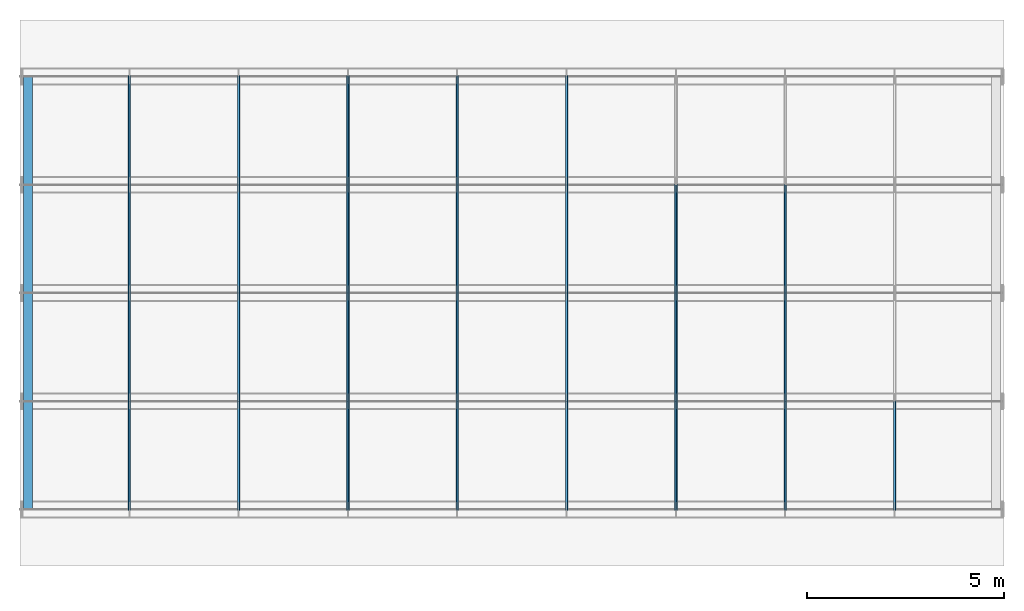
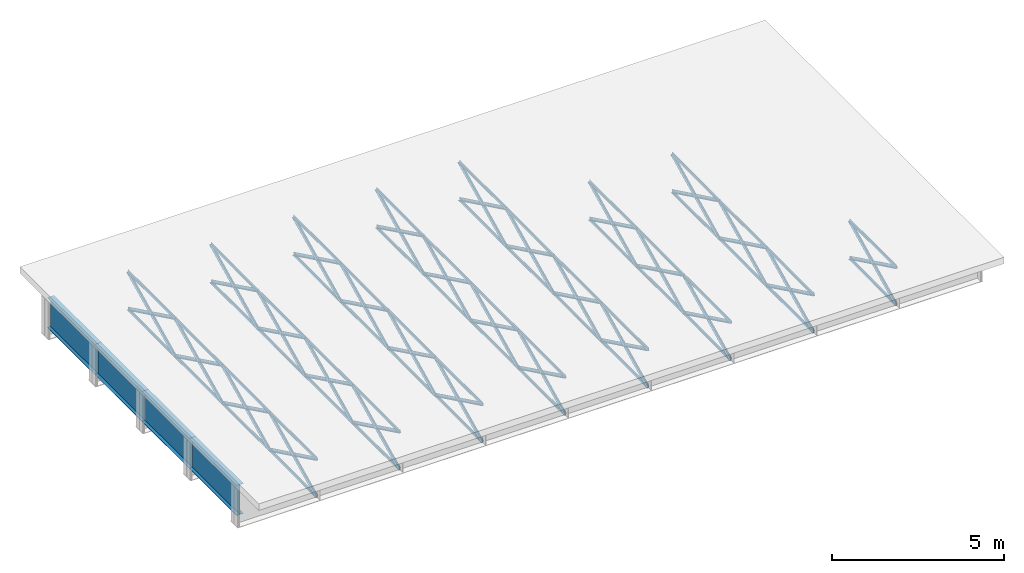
# One storey, part 1 of 13: 112 members.
"""IFC4 building model written with IfcOpenShell, lengths in metres."""

from ifc_helpers import new_model, si_unit, frame, origin, origin_with_axes, origin_2d_with_axis, place, context, subcontext, project, spatial, i_section, l_section, extrude, element, save


model = new_model("IFC4")

# Units and contexts
model_context = context("Model", 3, precision=1e-05, world=origin())
body_context = subcontext(model_context, "Body", "Model", "MODEL_VIEW")
ifc_project = project(units=[si_unit("LENGTHUNIT", "METRE"), si_unit("AREAUNIT", "SQUARE_METRE"), si_unit("VOLUMEUNIT", "CUBIC_METRE"), si_unit("PLANEANGLEUNIT", "RADIAN")], contexts=[model_context])

# Site, building, storey
site_placement = place(None, origin_with_axes())
site = spatial("IfcSite", under=ifc_project, at=site_placement, Name="Default Site")
building_placement = place(site_placement, origin_with_axes())
building = spatial("IfcBuilding", under=site, at=building_placement, Name="Bridge Structure")
storey_placement = place(building_placement, origin_with_axes())
storey = spatial("IfcBuildingStorey", under=building, at=storey_placement, Name="Superstructure")

# Members
for number, where, z_axis, x_axis, name in (
    (1, (0.2, -5.5, 0.134), (0.0, 1.0, 0.0), (-1.0, 0.0, 0.0), "End Diaphragm"),
    (2, (0.2, -2.75, 0.134), (0.0, 1.0, 0.0), (-1.0, 0.0, 0.0), "End Diaphragm"),
    (3, (0.2, 0.0, 0.134), (0.0, 1.0, 0.0), (-1.0, 0.0, 0.0), "End Diaphragm"),
    (4, (0.2, 2.75, 0.134), (0.0, 1.0, 0.0), (-1.0, 0.0, 0.0), "End Diaphragm"),
):
    element("IfcMember", number, at=place(storey_placement, frame(where, z_axis=z_axis, x_axis=x_axis)), inside=storey, Name=name, context=body_context, shape_type="SweptSolid", body=[
        extrude(i_section(OverallWidth=0.225, OverallDepth=1.071, WebThickness=0.012, FlangeThickness=0.012, at=origin_2d_with_axis()), origin_with_axes(), (0.0, 0.0, 1.0), 2.75),
    ])
for number, where, z_axis, x_axis, name in (
    (5, (2.7777777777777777, -5.5, 0.6695), (0.0, 0.8990855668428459, -0.43777293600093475), (-1.0, 0.0, 0.0), "Diagonal Brace"),
    (6, (2.7777777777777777, -5.5, -0.6695), (0.0, 0.8990855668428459, 0.43777293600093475), (-1.0, 0.0, 0.0), "Diagonal Brace"),
):
    element("IfcMember", number, at=place(storey_placement, frame(where, z_axis=z_axis, x_axis=x_axis)), inside=storey, Name=name, context=body_context, shape_type="SweptSolid", body=[
        extrude(l_section(Depth=0.1, Width=0.066, Thickness=0.008, at=origin_2d_with_axis()), origin_with_axes(), (0.0, 0.0, 1.0), 3.058663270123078),
    ])
for number, where, z_axis, x_axis, name in (
    (7, (2.7777777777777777, -5.5, -0.6695), (0.0, 1.0, 0.0), (-1.0, 0.0, 0.0), "Bottom Chord"),
    (8, (2.7777777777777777, -5.5, 0.6695), (0.0, 1.0, 0.0), (-1.0, 0.0, 0.0), "Top Chord"),
):
    element("IfcMember", number, at=place(storey_placement, frame(where, z_axis=z_axis, x_axis=x_axis)), inside=storey, Name=name, context=body_context, shape_type="SweptSolid", body=[
        extrude(l_section(Depth=0.08700000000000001, Width=0.053, Thickness=0.008, at=origin_2d_with_axis()), origin_with_axes(), (0.0, 0.0, 1.0), 2.75),
    ])
for number, where, z_axis, x_axis, name in (
    (9, (2.7777777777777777, -2.75, 0.6695), (0.0, 0.8990855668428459, -0.43777293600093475), (-1.0, 0.0, 0.0), "Diagonal Brace"),
    (10, (2.7777777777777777, -2.75, -0.6695), (0.0, 0.8990855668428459, 0.43777293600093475), (-1.0, 0.0, 0.0), "Diagonal Brace"),
):
    element("IfcMember", number, at=place(storey_placement, frame(where, z_axis=z_axis, x_axis=x_axis)), inside=storey, Name=name, context=body_context, shape_type="SweptSolid", body=[
        extrude(l_section(Depth=0.1, Width=0.066, Thickness=0.008, at=origin_2d_with_axis()), origin_with_axes(), (0.0, 0.0, 1.0), 3.058663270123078),
    ])
for number, where, z_axis, x_axis, name in (
    (11, (2.7777777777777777, -2.75, -0.6695), (0.0, 1.0, 0.0), (-1.0, 0.0, 0.0), "Bottom Chord"),
    (12, (2.7777777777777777, -2.75, 0.6695), (0.0, 1.0, 0.0), (-1.0, 0.0, 0.0), "Top Chord"),
):
    element("IfcMember", number, at=place(storey_placement, frame(where, z_axis=z_axis, x_axis=x_axis)), inside=storey, Name=name, context=body_context, shape_type="SweptSolid", body=[
        extrude(l_section(Depth=0.08700000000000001, Width=0.053, Thickness=0.008, at=origin_2d_with_axis()), origin_with_axes(), (0.0, 0.0, 1.0), 2.75),
    ])
for number, where, z_axis, x_axis, name in (
    (13, (2.7777777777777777, 0.0, 0.6695), (0.0, 0.8990855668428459, -0.43777293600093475), (-1.0, 0.0, 0.0), "Diagonal Brace"),
    (14, (2.7777777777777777, 0.0, -0.6695), (0.0, 0.8990855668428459, 0.43777293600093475), (-1.0, 0.0, 0.0), "Diagonal Brace"),
):
    element("IfcMember", number, at=place(storey_placement, frame(where, z_axis=z_axis, x_axis=x_axis)), inside=storey, Name=name, context=body_context, shape_type="SweptSolid", body=[
        extrude(l_section(Depth=0.1, Width=0.066, Thickness=0.008, at=origin_2d_with_axis()), origin_with_axes(), (0.0, 0.0, 1.0), 3.058663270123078),
    ])
for number, where, z_axis, x_axis, name in (
    (15, (2.7777777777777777, 0.0, -0.6695), (0.0, 1.0, 0.0), (-1.0, 0.0, 0.0), "Bottom Chord"),
    (16, (2.7777777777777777, 0.0, 0.6695), (0.0, 1.0, 0.0), (-1.0, 0.0, 0.0), "Top Chord"),
):
    element("IfcMember", number, at=place(storey_placement, frame(where, z_axis=z_axis, x_axis=x_axis)), inside=storey, Name=name, context=body_context, shape_type="SweptSolid", body=[
        extrude(l_section(Depth=0.08700000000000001, Width=0.053, Thickness=0.008, at=origin_2d_with_axis()), origin_with_axes(), (0.0, 0.0, 1.0), 2.75),
    ])
for number, where, z_axis, x_axis, name in (
    (17, (2.7777777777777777, 2.75, 0.6695), (0.0, 0.8990855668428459, -0.43777293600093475), (-1.0, 0.0, 0.0), "Diagonal Brace"),
    (18, (2.7777777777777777, 2.75, -0.6695), (0.0, 0.8990855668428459, 0.43777293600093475), (-1.0, 0.0, 0.0), "Diagonal Brace"),
):
    element("IfcMember", number, at=place(storey_placement, frame(where, z_axis=z_axis, x_axis=x_axis)), inside=storey, Name=name, context=body_context, shape_type="SweptSolid", body=[
        extrude(l_section(Depth=0.1, Width=0.066, Thickness=0.008, at=origin_2d_with_axis()), origin_with_axes(), (0.0, 0.0, 1.0), 3.058663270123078),
    ])
for number, where, z_axis, x_axis, name in (
    (19, (2.7777777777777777, 2.75, -0.6695), (0.0, 1.0, 0.0), (-1.0, 0.0, 0.0), "Bottom Chord"),
    (20, (2.7777777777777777, 2.75, 0.6695), (0.0, 1.0, 0.0), (-1.0, 0.0, 0.0), "Top Chord"),
):
    element("IfcMember", number, at=place(storey_placement, frame(where, z_axis=z_axis, x_axis=x_axis)), inside=storey, Name=name, context=body_context, shape_type="SweptSolid", body=[
        extrude(l_section(Depth=0.08700000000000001, Width=0.053, Thickness=0.008, at=origin_2d_with_axis()), origin_with_axes(), (0.0, 0.0, 1.0), 2.75),
    ])
for number, where, z_axis, x_axis, name in (
    (21, (5.555555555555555, -5.5, 0.6695), (0.0, 0.8990855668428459, -0.43777293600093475), (-1.0, 0.0, 0.0), "Diagonal Brace"),
    (22, (5.555555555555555, -5.5, -0.6695), (0.0, 0.8990855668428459, 0.43777293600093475), (-1.0, 0.0, 0.0), "Diagonal Brace"),
):
    element("IfcMember", number, at=place(storey_placement, frame(where, z_axis=z_axis, x_axis=x_axis)), inside=storey, Name=name, context=body_context, shape_type="SweptSolid", body=[
        extrude(l_section(Depth=0.1, Width=0.066, Thickness=0.008, at=origin_2d_with_axis()), origin_with_axes(), (0.0, 0.0, 1.0), 3.058663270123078),
    ])
for number, where, z_axis, x_axis, name in (
    (23, (5.555555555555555, -5.5, -0.6695), (0.0, 1.0, 0.0), (-1.0, 0.0, 0.0), "Bottom Chord"),
    (24, (5.555555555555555, -5.5, 0.6695), (0.0, 1.0, 0.0), (-1.0, 0.0, 0.0), "Top Chord"),
):
    element("IfcMember", number, at=place(storey_placement, frame(where, z_axis=z_axis, x_axis=x_axis)), inside=storey, Name=name, context=body_context, shape_type="SweptSolid", body=[
        extrude(l_section(Depth=0.08700000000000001, Width=0.053, Thickness=0.008, at=origin_2d_with_axis()), origin_with_axes(), (0.0, 0.0, 1.0), 2.75),
    ])
for number, where, z_axis, x_axis, name in (
    (25, (5.555555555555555, -2.75, 0.6695), (0.0, 0.8990855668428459, -0.43777293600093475), (-1.0, 0.0, 0.0), "Diagonal Brace"),
    (26, (5.555555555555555, -2.75, -0.6695), (0.0, 0.8990855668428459, 0.43777293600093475), (-1.0, 0.0, 0.0), "Diagonal Brace"),
):
    element("IfcMember", number, at=place(storey_placement, frame(where, z_axis=z_axis, x_axis=x_axis)), inside=storey, Name=name, context=body_context, shape_type="SweptSolid", body=[
        extrude(l_section(Depth=0.1, Width=0.066, Thickness=0.008, at=origin_2d_with_axis()), origin_with_axes(), (0.0, 0.0, 1.0), 3.058663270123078),
    ])
for number, where, z_axis, x_axis, name in (
    (27, (5.555555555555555, -2.75, -0.6695), (0.0, 1.0, 0.0), (-1.0, 0.0, 0.0), "Bottom Chord"),
    (28, (5.555555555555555, -2.75, 0.6695), (0.0, 1.0, 0.0), (-1.0, 0.0, 0.0), "Top Chord"),
):
    element("IfcMember", number, at=place(storey_placement, frame(where, z_axis=z_axis, x_axis=x_axis)), inside=storey, Name=name, context=body_context, shape_type="SweptSolid", body=[
        extrude(l_section(Depth=0.08700000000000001, Width=0.053, Thickness=0.008, at=origin_2d_with_axis()), origin_with_axes(), (0.0, 0.0, 1.0), 2.75),
    ])
for number, where, z_axis, x_axis, name in (
    (29, (5.555555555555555, 0.0, 0.6695), (0.0, 0.8990855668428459, -0.43777293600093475), (-1.0, 0.0, 0.0), "Diagonal Brace"),
    (30, (5.555555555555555, 0.0, -0.6695), (0.0, 0.8990855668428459, 0.43777293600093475), (-1.0, 0.0, 0.0), "Diagonal Brace"),
):
    element("IfcMember", number, at=place(storey_placement, frame(where, z_axis=z_axis, x_axis=x_axis)), inside=storey, Name=name, context=body_context, shape_type="SweptSolid", body=[
        extrude(l_section(Depth=0.1, Width=0.066, Thickness=0.008, at=origin_2d_with_axis()), origin_with_axes(), (0.0, 0.0, 1.0), 3.058663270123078),
    ])
for number, where, z_axis, x_axis, name in (
    (31, (5.555555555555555, 0.0, -0.6695), (0.0, 1.0, 0.0), (-1.0, 0.0, 0.0), "Bottom Chord"),
    (32, (5.555555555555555, 0.0, 0.6695), (0.0, 1.0, 0.0), (-1.0, 0.0, 0.0), "Top Chord"),
):
    element("IfcMember", number, at=place(storey_placement, frame(where, z_axis=z_axis, x_axis=x_axis)), inside=storey, Name=name, context=body_context, shape_type="SweptSolid", body=[
        extrude(l_section(Depth=0.08700000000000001, Width=0.053, Thickness=0.008, at=origin_2d_with_axis()), origin_with_axes(), (0.0, 0.0, 1.0), 2.75),
    ])
for number, where, z_axis, x_axis, name in (
    (33, (5.555555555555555, 2.75, 0.6695), (0.0, 0.8990855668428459, -0.43777293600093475), (-1.0, 0.0, 0.0), "Diagonal Brace"),
    (34, (5.555555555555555, 2.75, -0.6695), (0.0, 0.8990855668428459, 0.43777293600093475), (-1.0, 0.0, 0.0), "Diagonal Brace"),
):
    element("IfcMember", number, at=place(storey_placement, frame(where, z_axis=z_axis, x_axis=x_axis)), inside=storey, Name=name, context=body_context, shape_type="SweptSolid", body=[
        extrude(l_section(Depth=0.1, Width=0.066, Thickness=0.008, at=origin_2d_with_axis()), origin_with_axes(), (0.0, 0.0, 1.0), 3.058663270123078),
    ])
for number, where, z_axis, x_axis, name in (
    (35, (5.555555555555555, 2.75, -0.6695), (0.0, 1.0, 0.0), (-1.0, 0.0, 0.0), "Bottom Chord"),
    (36, (5.555555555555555, 2.75, 0.6695), (0.0, 1.0, 0.0), (-1.0, 0.0, 0.0), "Top Chord"),
):
    element("IfcMember", number, at=place(storey_placement, frame(where, z_axis=z_axis, x_axis=x_axis)), inside=storey, Name=name, context=body_context, shape_type="SweptSolid", body=[
        extrude(l_section(Depth=0.08700000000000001, Width=0.053, Thickness=0.008, at=origin_2d_with_axis()), origin_with_axes(), (0.0, 0.0, 1.0), 2.75),
    ])
for number, where, z_axis, x_axis, name in (
    (37, (8.333333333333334, -5.5, 0.6695), (0.0, 0.8990855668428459, -0.43777293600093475), (-1.0, 0.0, 0.0), "Diagonal Brace"),
    (38, (8.333333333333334, -5.5, -0.6695), (0.0, 0.8990855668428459, 0.43777293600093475), (-1.0, 0.0, 0.0), "Diagonal Brace"),
):
    element("IfcMember", number, at=place(storey_placement, frame(where, z_axis=z_axis, x_axis=x_axis)), inside=storey, Name=name, context=body_context, shape_type="SweptSolid", body=[
        extrude(l_section(Depth=0.1, Width=0.066, Thickness=0.008, at=origin_2d_with_axis()), origin_with_axes(), (0.0, 0.0, 1.0), 3.058663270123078),
    ])
for number, where, z_axis, x_axis, name in (
    (39, (8.333333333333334, -5.5, -0.6695), (0.0, 1.0, 0.0), (-1.0, 0.0, 0.0), "Bottom Chord"),
    (40, (8.333333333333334, -5.5, 0.6695), (0.0, 1.0, 0.0), (-1.0, 0.0, 0.0), "Top Chord"),
):
    element("IfcMember", number, at=place(storey_placement, frame(where, z_axis=z_axis, x_axis=x_axis)), inside=storey, Name=name, context=body_context, shape_type="SweptSolid", body=[
        extrude(l_section(Depth=0.08700000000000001, Width=0.053, Thickness=0.008, at=origin_2d_with_axis()), origin_with_axes(), (0.0, 0.0, 1.0), 2.75),
    ])
for number, where, z_axis, x_axis, name in (
    (41, (8.333333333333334, -2.75, 0.6695), (0.0, 0.8990855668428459, -0.43777293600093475), (-1.0, 0.0, 0.0), "Diagonal Brace"),
    (42, (8.333333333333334, -2.75, -0.6695), (0.0, 0.8990855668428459, 0.43777293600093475), (-1.0, 0.0, 0.0), "Diagonal Brace"),
):
    element("IfcMember", number, at=place(storey_placement, frame(where, z_axis=z_axis, x_axis=x_axis)), inside=storey, Name=name, context=body_context, shape_type="SweptSolid", body=[
        extrude(l_section(Depth=0.1, Width=0.066, Thickness=0.008, at=origin_2d_with_axis()), origin_with_axes(), (0.0, 0.0, 1.0), 3.058663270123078),
    ])
for number, where, z_axis, x_axis, name in (
    (43, (8.333333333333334, -2.75, -0.6695), (0.0, 1.0, 0.0), (-1.0, 0.0, 0.0), "Bottom Chord"),
    (44, (8.333333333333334, -2.75, 0.6695), (0.0, 1.0, 0.0), (-1.0, 0.0, 0.0), "Top Chord"),
):
    element("IfcMember", number, at=place(storey_placement, frame(where, z_axis=z_axis, x_axis=x_axis)), inside=storey, Name=name, context=body_context, shape_type="SweptSolid", body=[
        extrude(l_section(Depth=0.08700000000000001, Width=0.053, Thickness=0.008, at=origin_2d_with_axis()), origin_with_axes(), (0.0, 0.0, 1.0), 2.75),
    ])
for number, where, z_axis, x_axis, name in (
    (45, (8.333333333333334, 0.0, 0.6695), (0.0, 0.8990855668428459, -0.43777293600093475), (-1.0, 0.0, 0.0), "Diagonal Brace"),
    (46, (8.333333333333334, 0.0, -0.6695), (0.0, 0.8990855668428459, 0.43777293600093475), (-1.0, 0.0, 0.0), "Diagonal Brace"),
):
    element("IfcMember", number, at=place(storey_placement, frame(where, z_axis=z_axis, x_axis=x_axis)), inside=storey, Name=name, context=body_context, shape_type="SweptSolid", body=[
        extrude(l_section(Depth=0.1, Width=0.066, Thickness=0.008, at=origin_2d_with_axis()), origin_with_axes(), (0.0, 0.0, 1.0), 3.058663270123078),
    ])
for number, where, z_axis, x_axis, name in (
    (47, (8.333333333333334, 0.0, -0.6695), (0.0, 1.0, 0.0), (-1.0, 0.0, 0.0), "Bottom Chord"),
    (48, (8.333333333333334, 0.0, 0.6695), (0.0, 1.0, 0.0), (-1.0, 0.0, 0.0), "Top Chord"),
):
    element("IfcMember", number, at=place(storey_placement, frame(where, z_axis=z_axis, x_axis=x_axis)), inside=storey, Name=name, context=body_context, shape_type="SweptSolid", body=[
        extrude(l_section(Depth=0.08700000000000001, Width=0.053, Thickness=0.008, at=origin_2d_with_axis()), origin_with_axes(), (0.0, 0.0, 1.0), 2.75),
    ])
for number, where, z_axis, x_axis, name in (
    (49, (8.333333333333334, 2.75, 0.6695), (0.0, 0.8990855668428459, -0.43777293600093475), (-1.0, 0.0, 0.0), "Diagonal Brace"),
    (50, (8.333333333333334, 2.75, -0.6695), (0.0, 0.8990855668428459, 0.43777293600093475), (-1.0, 0.0, 0.0), "Diagonal Brace"),
):
    element("IfcMember", number, at=place(storey_placement, frame(where, z_axis=z_axis, x_axis=x_axis)), inside=storey, Name=name, context=body_context, shape_type="SweptSolid", body=[
        extrude(l_section(Depth=0.1, Width=0.066, Thickness=0.008, at=origin_2d_with_axis()), origin_with_axes(), (0.0, 0.0, 1.0), 3.058663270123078),
    ])
for number, where, z_axis, x_axis, name in (
    (51, (8.333333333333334, 2.75, -0.6695), (0.0, 1.0, 0.0), (-1.0, 0.0, 0.0), "Bottom Chord"),
    (52, (8.333333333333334, 2.75, 0.6695), (0.0, 1.0, 0.0), (-1.0, 0.0, 0.0), "Top Chord"),
):
    element("IfcMember", number, at=place(storey_placement, frame(where, z_axis=z_axis, x_axis=x_axis)), inside=storey, Name=name, context=body_context, shape_type="SweptSolid", body=[
        extrude(l_section(Depth=0.08700000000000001, Width=0.053, Thickness=0.008, at=origin_2d_with_axis()), origin_with_axes(), (0.0, 0.0, 1.0), 2.75),
    ])
for number, where, z_axis, x_axis, name in (
    (53, (11.11111111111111, -5.5, 0.6695), (0.0, 0.8990855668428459, -0.43777293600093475), (-1.0, 0.0, 0.0), "Diagonal Brace"),
    (54, (11.11111111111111, -5.5, -0.6695), (0.0, 0.8990855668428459, 0.43777293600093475), (-1.0, 0.0, 0.0), "Diagonal Brace"),
):
    element("IfcMember", number, at=place(storey_placement, frame(where, z_axis=z_axis, x_axis=x_axis)), inside=storey, Name=name, context=body_context, shape_type="SweptSolid", body=[
        extrude(l_section(Depth=0.1, Width=0.066, Thickness=0.008, at=origin_2d_with_axis()), origin_with_axes(), (0.0, 0.0, 1.0), 3.058663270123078),
    ])
for number, where, z_axis, x_axis, name in (
    (55, (11.11111111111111, -5.5, -0.6695), (0.0, 1.0, 0.0), (-1.0, 0.0, 0.0), "Bottom Chord"),
    (56, (11.11111111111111, -5.5, 0.6695), (0.0, 1.0, 0.0), (-1.0, 0.0, 0.0), "Top Chord"),
):
    element("IfcMember", number, at=place(storey_placement, frame(where, z_axis=z_axis, x_axis=x_axis)), inside=storey, Name=name, context=body_context, shape_type="SweptSolid", body=[
        extrude(l_section(Depth=0.08700000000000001, Width=0.053, Thickness=0.008, at=origin_2d_with_axis()), origin_with_axes(), (0.0, 0.0, 1.0), 2.75),
    ])
for number, where, z_axis, x_axis, name in (
    (57, (11.11111111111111, -2.75, 0.6695), (0.0, 0.8990855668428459, -0.43777293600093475), (-1.0, 0.0, 0.0), "Diagonal Brace"),
    (58, (11.11111111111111, -2.75, -0.6695), (0.0, 0.8990855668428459, 0.43777293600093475), (-1.0, 0.0, 0.0), "Diagonal Brace"),
):
    element("IfcMember", number, at=place(storey_placement, frame(where, z_axis=z_axis, x_axis=x_axis)), inside=storey, Name=name, context=body_context, shape_type="SweptSolid", body=[
        extrude(l_section(Depth=0.1, Width=0.066, Thickness=0.008, at=origin_2d_with_axis()), origin_with_axes(), (0.0, 0.0, 1.0), 3.058663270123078),
    ])
for number, where, z_axis, x_axis, name in (
    (59, (11.11111111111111, -2.75, -0.6695), (0.0, 1.0, 0.0), (-1.0, 0.0, 0.0), "Bottom Chord"),
    (60, (11.11111111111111, -2.75, 0.6695), (0.0, 1.0, 0.0), (-1.0, 0.0, 0.0), "Top Chord"),
):
    element("IfcMember", number, at=place(storey_placement, frame(where, z_axis=z_axis, x_axis=x_axis)), inside=storey, Name=name, context=body_context, shape_type="SweptSolid", body=[
        extrude(l_section(Depth=0.08700000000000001, Width=0.053, Thickness=0.008, at=origin_2d_with_axis()), origin_with_axes(), (0.0, 0.0, 1.0), 2.75),
    ])
for number, where, z_axis, x_axis, name in (
    (61, (11.11111111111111, 0.0, 0.6695), (0.0, 0.8990855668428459, -0.43777293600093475), (-1.0, 0.0, 0.0), "Diagonal Brace"),
    (62, (11.11111111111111, 0.0, -0.6695), (0.0, 0.8990855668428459, 0.43777293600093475), (-1.0, 0.0, 0.0), "Diagonal Brace"),
):
    element("IfcMember", number, at=place(storey_placement, frame(where, z_axis=z_axis, x_axis=x_axis)), inside=storey, Name=name, context=body_context, shape_type="SweptSolid", body=[
        extrude(l_section(Depth=0.1, Width=0.066, Thickness=0.008, at=origin_2d_with_axis()), origin_with_axes(), (0.0, 0.0, 1.0), 3.058663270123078),
    ])
for number, where, z_axis, x_axis, name in (
    (63, (11.11111111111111, 0.0, -0.6695), (0.0, 1.0, 0.0), (-1.0, 0.0, 0.0), "Bottom Chord"),
    (64, (11.11111111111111, 0.0, 0.6695), (0.0, 1.0, 0.0), (-1.0, 0.0, 0.0), "Top Chord"),
):
    element("IfcMember", number, at=place(storey_placement, frame(where, z_axis=z_axis, x_axis=x_axis)), inside=storey, Name=name, context=body_context, shape_type="SweptSolid", body=[
        extrude(l_section(Depth=0.08700000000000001, Width=0.053, Thickness=0.008, at=origin_2d_with_axis()), origin_with_axes(), (0.0, 0.0, 1.0), 2.75),
    ])
for number, where, z_axis, x_axis, name in (
    (65, (11.11111111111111, 2.75, 0.6695), (0.0, 0.8990855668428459, -0.43777293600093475), (-1.0, 0.0, 0.0), "Diagonal Brace"),
    (66, (11.11111111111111, 2.75, -0.6695), (0.0, 0.8990855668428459, 0.43777293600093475), (-1.0, 0.0, 0.0), "Diagonal Brace"),
):
    element("IfcMember", number, at=place(storey_placement, frame(where, z_axis=z_axis, x_axis=x_axis)), inside=storey, Name=name, context=body_context, shape_type="SweptSolid", body=[
        extrude(l_section(Depth=0.1, Width=0.066, Thickness=0.008, at=origin_2d_with_axis()), origin_with_axes(), (0.0, 0.0, 1.0), 3.058663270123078),
    ])
for number, where, z_axis, x_axis, name in (
    (67, (11.11111111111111, 2.75, -0.6695), (0.0, 1.0, 0.0), (-1.0, 0.0, 0.0), "Bottom Chord"),
    (68, (11.11111111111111, 2.75, 0.6695), (0.0, 1.0, 0.0), (-1.0, 0.0, 0.0), "Top Chord"),
):
    element("IfcMember", number, at=place(storey_placement, frame(where, z_axis=z_axis, x_axis=x_axis)), inside=storey, Name=name, context=body_context, shape_type="SweptSolid", body=[
        extrude(l_section(Depth=0.08700000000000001, Width=0.053, Thickness=0.008, at=origin_2d_with_axis()), origin_with_axes(), (0.0, 0.0, 1.0), 2.75),
    ])
for number, where, z_axis, x_axis, name in (
    (69, (13.88888888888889, -5.5, 0.6695), (0.0, 0.8990855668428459, -0.43777293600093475), (-1.0, 0.0, 0.0), "Diagonal Brace"),
    (70, (13.88888888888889, -5.5, -0.6695), (0.0, 0.8990855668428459, 0.43777293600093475), (-1.0, 0.0, 0.0), "Diagonal Brace"),
):
    element("IfcMember", number, at=place(storey_placement, frame(where, z_axis=z_axis, x_axis=x_axis)), inside=storey, Name=name, context=body_context, shape_type="SweptSolid", body=[
        extrude(l_section(Depth=0.1, Width=0.066, Thickness=0.008, at=origin_2d_with_axis()), origin_with_axes(), (0.0, 0.0, 1.0), 3.058663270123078),
    ])
for number, where, z_axis, x_axis, name in (
    (71, (13.88888888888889, -5.5, -0.6695), (0.0, 1.0, 0.0), (-1.0, 0.0, 0.0), "Bottom Chord"),
    (72, (13.88888888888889, -5.5, 0.6695), (0.0, 1.0, 0.0), (-1.0, 0.0, 0.0), "Top Chord"),
):
    element("IfcMember", number, at=place(storey_placement, frame(where, z_axis=z_axis, x_axis=x_axis)), inside=storey, Name=name, context=body_context, shape_type="SweptSolid", body=[
        extrude(l_section(Depth=0.08700000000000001, Width=0.053, Thickness=0.008, at=origin_2d_with_axis()), origin_with_axes(), (0.0, 0.0, 1.0), 2.75),
    ])
for number, where, z_axis, x_axis, name in (
    (73, (13.88888888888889, -2.75, 0.6695), (0.0, 0.8990855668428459, -0.43777293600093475), (-1.0, 0.0, 0.0), "Diagonal Brace"),
    (74, (13.88888888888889, -2.75, -0.6695), (0.0, 0.8990855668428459, 0.43777293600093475), (-1.0, 0.0, 0.0), "Diagonal Brace"),
):
    element("IfcMember", number, at=place(storey_placement, frame(where, z_axis=z_axis, x_axis=x_axis)), inside=storey, Name=name, context=body_context, shape_type="SweptSolid", body=[
        extrude(l_section(Depth=0.1, Width=0.066, Thickness=0.008, at=origin_2d_with_axis()), origin_with_axes(), (0.0, 0.0, 1.0), 3.058663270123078),
    ])
for number, where, z_axis, x_axis, name in (
    (75, (13.88888888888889, -2.75, -0.6695), (0.0, 1.0, 0.0), (-1.0, 0.0, 0.0), "Bottom Chord"),
    (76, (13.88888888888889, -2.75, 0.6695), (0.0, 1.0, 0.0), (-1.0, 0.0, 0.0), "Top Chord"),
):
    element("IfcMember", number, at=place(storey_placement, frame(where, z_axis=z_axis, x_axis=x_axis)), inside=storey, Name=name, context=body_context, shape_type="SweptSolid", body=[
        extrude(l_section(Depth=0.08700000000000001, Width=0.053, Thickness=0.008, at=origin_2d_with_axis()), origin_with_axes(), (0.0, 0.0, 1.0), 2.75),
    ])
for number, where, z_axis, x_axis, name in (
    (77, (13.88888888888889, 0.0, 0.6695), (0.0, 0.8990855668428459, -0.43777293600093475), (-1.0, 0.0, 0.0), "Diagonal Brace"),
    (78, (13.88888888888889, 0.0, -0.6695), (0.0, 0.8990855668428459, 0.43777293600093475), (-1.0, 0.0, 0.0), "Diagonal Brace"),
):
    element("IfcMember", number, at=place(storey_placement, frame(where, z_axis=z_axis, x_axis=x_axis)), inside=storey, Name=name, context=body_context, shape_type="SweptSolid", body=[
        extrude(l_section(Depth=0.1, Width=0.066, Thickness=0.008, at=origin_2d_with_axis()), origin_with_axes(), (0.0, 0.0, 1.0), 3.058663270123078),
    ])
for number, where, z_axis, x_axis, name in (
    (79, (13.88888888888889, 0.0, -0.6695), (0.0, 1.0, 0.0), (-1.0, 0.0, 0.0), "Bottom Chord"),
    (80, (13.88888888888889, 0.0, 0.6695), (0.0, 1.0, 0.0), (-1.0, 0.0, 0.0), "Top Chord"),
):
    element("IfcMember", number, at=place(storey_placement, frame(where, z_axis=z_axis, x_axis=x_axis)), inside=storey, Name=name, context=body_context, shape_type="SweptSolid", body=[
        extrude(l_section(Depth=0.08700000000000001, Width=0.053, Thickness=0.008, at=origin_2d_with_axis()), origin_with_axes(), (0.0, 0.0, 1.0), 2.75),
    ])
for number, where, z_axis, x_axis, name in (
    (81, (13.88888888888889, 2.75, 0.6695), (0.0, 0.8990855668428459, -0.43777293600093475), (-1.0, 0.0, 0.0), "Diagonal Brace"),
    (82, (13.88888888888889, 2.75, -0.6695), (0.0, 0.8990855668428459, 0.43777293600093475), (-1.0, 0.0, 0.0), "Diagonal Brace"),
):
    element("IfcMember", number, at=place(storey_placement, frame(where, z_axis=z_axis, x_axis=x_axis)), inside=storey, Name=name, context=body_context, shape_type="SweptSolid", body=[
        extrude(l_section(Depth=0.1, Width=0.066, Thickness=0.008, at=origin_2d_with_axis()), origin_with_axes(), (0.0, 0.0, 1.0), 3.058663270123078),
    ])
for number, where, z_axis, x_axis, name in (
    (83, (13.88888888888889, 2.75, -0.6695), (0.0, 1.0, 0.0), (-1.0, 0.0, 0.0), "Bottom Chord"),
    (84, (13.88888888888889, 2.75, 0.6695), (0.0, 1.0, 0.0), (-1.0, 0.0, 0.0), "Top Chord"),
):
    element("IfcMember", number, at=place(storey_placement, frame(where, z_axis=z_axis, x_axis=x_axis)), inside=storey, Name=name, context=body_context, shape_type="SweptSolid", body=[
        extrude(l_section(Depth=0.08700000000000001, Width=0.053, Thickness=0.008, at=origin_2d_with_axis()), origin_with_axes(), (0.0, 0.0, 1.0), 2.75),
    ])
for number, where, z_axis, x_axis, name in (
    (85, (16.666666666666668, -5.5, 0.6695), (0.0, 0.8990855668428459, -0.43777293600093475), (-1.0, 0.0, 0.0), "Diagonal Brace"),
    (86, (16.666666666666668, -5.5, -0.6695), (0.0, 0.8990855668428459, 0.43777293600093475), (-1.0, 0.0, 0.0), "Diagonal Brace"),
):
    element("IfcMember", number, at=place(storey_placement, frame(where, z_axis=z_axis, x_axis=x_axis)), inside=storey, Name=name, context=body_context, shape_type="SweptSolid", body=[
        extrude(l_section(Depth=0.1, Width=0.066, Thickness=0.008, at=origin_2d_with_axis()), origin_with_axes(), (0.0, 0.0, 1.0), 3.058663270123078),
    ])
for number, where, z_axis, x_axis, name in (
    (87, (16.666666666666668, -5.5, -0.6695), (0.0, 1.0, 0.0), (-1.0, 0.0, 0.0), "Bottom Chord"),
    (88, (16.666666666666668, -5.5, 0.6695), (0.0, 1.0, 0.0), (-1.0, 0.0, 0.0), "Top Chord"),
):
    element("IfcMember", number, at=place(storey_placement, frame(where, z_axis=z_axis, x_axis=x_axis)), inside=storey, Name=name, context=body_context, shape_type="SweptSolid", body=[
        extrude(l_section(Depth=0.08700000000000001, Width=0.053, Thickness=0.008, at=origin_2d_with_axis()), origin_with_axes(), (0.0, 0.0, 1.0), 2.75),
    ])
for number, where, z_axis, x_axis, name in (
    (89, (16.666666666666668, -2.75, 0.6695), (0.0, 0.8990855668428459, -0.43777293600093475), (-1.0, 0.0, 0.0), "Diagonal Brace"),
    (90, (16.666666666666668, -2.75, -0.6695), (0.0, 0.8990855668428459, 0.43777293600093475), (-1.0, 0.0, 0.0), "Diagonal Brace"),
):
    element("IfcMember", number, at=place(storey_placement, frame(where, z_axis=z_axis, x_axis=x_axis)), inside=storey, Name=name, context=body_context, shape_type="SweptSolid", body=[
        extrude(l_section(Depth=0.1, Width=0.066, Thickness=0.008, at=origin_2d_with_axis()), origin_with_axes(), (0.0, 0.0, 1.0), 3.058663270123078),
    ])
for number, where, z_axis, x_axis, name in (
    (91, (16.666666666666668, -2.75, -0.6695), (0.0, 1.0, 0.0), (-1.0, 0.0, 0.0), "Bottom Chord"),
    (92, (16.666666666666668, -2.75, 0.6695), (0.0, 1.0, 0.0), (-1.0, 0.0, 0.0), "Top Chord"),
):
    element("IfcMember", number, at=place(storey_placement, frame(where, z_axis=z_axis, x_axis=x_axis)), inside=storey, Name=name, context=body_context, shape_type="SweptSolid", body=[
        extrude(l_section(Depth=0.08700000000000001, Width=0.053, Thickness=0.008, at=origin_2d_with_axis()), origin_with_axes(), (0.0, 0.0, 1.0), 2.75),
    ])
for number, where, z_axis, x_axis, name in (
    (93, (16.666666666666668, 0.0, 0.6695), (0.0, 0.8990855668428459, -0.43777293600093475), (-1.0, 0.0, 0.0), "Diagonal Brace"),
    (94, (16.666666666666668, 0.0, -0.6695), (0.0, 0.8990855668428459, 0.43777293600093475), (-1.0, 0.0, 0.0), "Diagonal Brace"),
):
    element("IfcMember", number, at=place(storey_placement, frame(where, z_axis=z_axis, x_axis=x_axis)), inside=storey, Name=name, context=body_context, shape_type="SweptSolid", body=[
        extrude(l_section(Depth=0.1, Width=0.066, Thickness=0.008, at=origin_2d_with_axis()), origin_with_axes(), (0.0, 0.0, 1.0), 3.058663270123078),
    ])
for number, where, z_axis, x_axis, name in (
    (95, (16.666666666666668, 0.0, -0.6695), (0.0, 1.0, 0.0), (-1.0, 0.0, 0.0), "Bottom Chord"),
    (96, (16.666666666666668, 0.0, 0.6695), (0.0, 1.0, 0.0), (-1.0, 0.0, 0.0), "Top Chord"),
):
    element("IfcMember", number, at=place(storey_placement, frame(where, z_axis=z_axis, x_axis=x_axis)), inside=storey, Name=name, context=body_context, shape_type="SweptSolid", body=[
        extrude(l_section(Depth=0.08700000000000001, Width=0.053, Thickness=0.008, at=origin_2d_with_axis()), origin_with_axes(), (0.0, 0.0, 1.0), 2.75),
    ])
for number, where, z_axis, x_axis, name in (
    (97, (19.444444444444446, -5.5, 0.6695), (0.0, 0.8990855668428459, -0.43777293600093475), (-1.0, 0.0, 0.0), "Diagonal Brace"),
    (98, (19.444444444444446, -5.5, -0.6695), (0.0, 0.8990855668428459, 0.43777293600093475), (-1.0, 0.0, 0.0), "Diagonal Brace"),
):
    element("IfcMember", number, at=place(storey_placement, frame(where, z_axis=z_axis, x_axis=x_axis)), inside=storey, Name=name, context=body_context, shape_type="SweptSolid", body=[
        extrude(l_section(Depth=0.1, Width=0.066, Thickness=0.008, at=origin_2d_with_axis()), origin_with_axes(), (0.0, 0.0, 1.0), 3.058663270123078),
    ])
for number, where, z_axis, x_axis, name in (
    (99, (19.444444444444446, -5.5, -0.6695), (0.0, 1.0, 0.0), (-1.0, 0.0, 0.0), "Bottom Chord"),
    (100, (19.444444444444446, -5.5, 0.6695), (0.0, 1.0, 0.0), (-1.0, 0.0, 0.0), "Top Chord"),
):
    element("IfcMember", number, at=place(storey_placement, frame(where, z_axis=z_axis, x_axis=x_axis)), inside=storey, Name=name, context=body_context, shape_type="SweptSolid", body=[
        extrude(l_section(Depth=0.08700000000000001, Width=0.053, Thickness=0.008, at=origin_2d_with_axis()), origin_with_axes(), (0.0, 0.0, 1.0), 2.75),
    ])
for number, where, z_axis, x_axis, name in (
    (101, (19.444444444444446, -2.75, 0.6695), (0.0, 0.8990855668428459, -0.43777293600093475), (-1.0, 0.0, 0.0), "Diagonal Brace"),
    (102, (19.444444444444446, -2.75, -0.6695), (0.0, 0.8990855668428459, 0.43777293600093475), (-1.0, 0.0, 0.0), "Diagonal Brace"),
):
    element("IfcMember", number, at=place(storey_placement, frame(where, z_axis=z_axis, x_axis=x_axis)), inside=storey, Name=name, context=body_context, shape_type="SweptSolid", body=[
        extrude(l_section(Depth=0.1, Width=0.066, Thickness=0.008, at=origin_2d_with_axis()), origin_with_axes(), (0.0, 0.0, 1.0), 3.058663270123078),
    ])
for number, where, z_axis, x_axis, name in (
    (103, (19.444444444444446, -2.75, -0.6695), (0.0, 1.0, 0.0), (-1.0, 0.0, 0.0), "Bottom Chord"),
    (104, (19.444444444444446, -2.75, 0.6695), (0.0, 1.0, 0.0), (-1.0, 0.0, 0.0), "Top Chord"),
):
    element("IfcMember", number, at=place(storey_placement, frame(where, z_axis=z_axis, x_axis=x_axis)), inside=storey, Name=name, context=body_context, shape_type="SweptSolid", body=[
        extrude(l_section(Depth=0.08700000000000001, Width=0.053, Thickness=0.008, at=origin_2d_with_axis()), origin_with_axes(), (0.0, 0.0, 1.0), 2.75),
    ])
for number, where, z_axis, x_axis, name in (
    (105, (19.444444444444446, 0.0, 0.6695), (0.0, 0.8990855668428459, -0.43777293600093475), (-1.0, 0.0, 0.0), "Diagonal Brace"),
    (106, (19.444444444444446, 0.0, -0.6695), (0.0, 0.8990855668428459, 0.43777293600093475), (-1.0, 0.0, 0.0), "Diagonal Brace"),
):
    element("IfcMember", number, at=place(storey_placement, frame(where, z_axis=z_axis, x_axis=x_axis)), inside=storey, Name=name, context=body_context, shape_type="SweptSolid", body=[
        extrude(l_section(Depth=0.1, Width=0.066, Thickness=0.008, at=origin_2d_with_axis()), origin_with_axes(), (0.0, 0.0, 1.0), 3.058663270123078),
    ])
for number, where, z_axis, x_axis, name in (
    (107, (19.444444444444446, 0.0, -0.6695), (0.0, 1.0, 0.0), (-1.0, 0.0, 0.0), "Bottom Chord"),
    (108, (19.444444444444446, 0.0, 0.6695), (0.0, 1.0, 0.0), (-1.0, 0.0, 0.0), "Top Chord"),
):
    element("IfcMember", number, at=place(storey_placement, frame(where, z_axis=z_axis, x_axis=x_axis)), inside=storey, Name=name, context=body_context, shape_type="SweptSolid", body=[
        extrude(l_section(Depth=0.08700000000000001, Width=0.053, Thickness=0.008, at=origin_2d_with_axis()), origin_with_axes(), (0.0, 0.0, 1.0), 2.75),
    ])
for number, where, z_axis, x_axis, name in (
    (109, (22.22222222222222, -5.5, 0.6695), (0.0, 0.8990855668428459, -0.43777293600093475), (-1.0, 0.0, 0.0), "Diagonal Brace"),
    (110, (22.22222222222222, -5.5, -0.6695), (0.0, 0.8990855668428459, 0.43777293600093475), (-1.0, 0.0, 0.0), "Diagonal Brace"),
):
    element("IfcMember", number, at=place(storey_placement, frame(where, z_axis=z_axis, x_axis=x_axis)), inside=storey, Name=name, context=body_context, shape_type="SweptSolid", body=[
        extrude(l_section(Depth=0.1, Width=0.066, Thickness=0.008, at=origin_2d_with_axis()), origin_with_axes(), (0.0, 0.0, 1.0), 3.058663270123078),
    ])
for number, where, z_axis, x_axis, name in (
    (111, (22.22222222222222, -5.5, -0.6695), (0.0, 1.0, 0.0), (-1.0, 0.0, 0.0), "Bottom Chord"),
    (112, (22.22222222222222, -5.5, 0.6695), (0.0, 1.0, 0.0), (-1.0, 0.0, 0.0), "Top Chord"),
):
    element("IfcMember", number, at=place(storey_placement, frame(where, z_axis=z_axis, x_axis=x_axis)), inside=storey, Name=name, context=body_context, shape_type="SweptSolid", body=[
        extrude(l_section(Depth=0.08700000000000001, Width=0.053, Thickness=0.008, at=origin_2d_with_axis()), origin_with_axes(), (0.0, 0.0, 1.0), 2.75),
    ])

save(model, "model.ifc")
